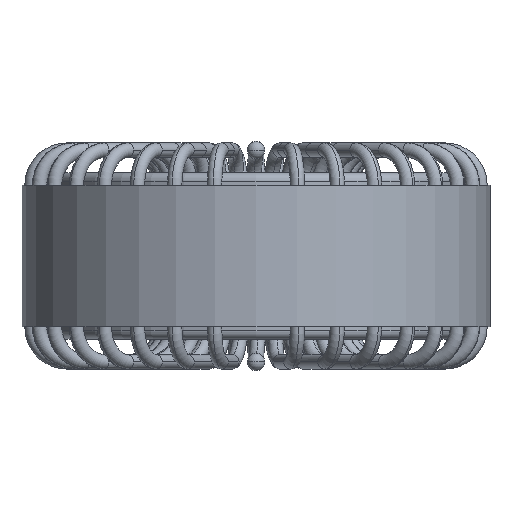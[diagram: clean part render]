
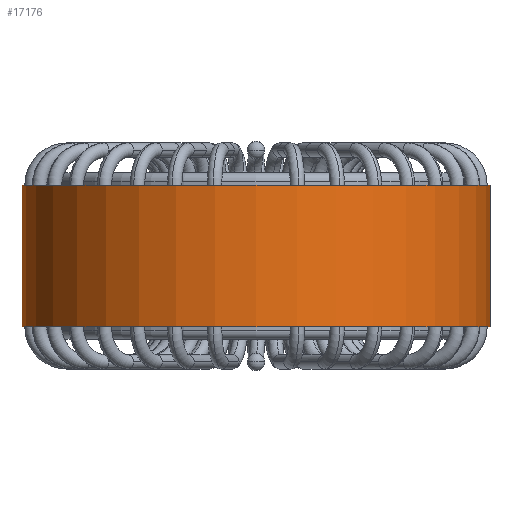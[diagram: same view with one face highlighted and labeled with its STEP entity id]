
A CAD part, front view. The second image highlights one B-rep face of the part: STEP entity #17176.
In plain terms, the highlighted cylindrical face has radius 26.515 mm (diameter 53.03 mm), a partial arc.
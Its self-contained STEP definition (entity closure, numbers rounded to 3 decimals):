
#1264 = VERTEX_POINT ( 'NONE', #4732 ) ;
#1556 = EDGE_LOOP ( 'NONE', ( #26066, #36090, #6933, #8087 ) ) ;
#3010 = CARTESIAN_POINT ( 'NONE',  ( 26.515, 0., 8. ) ) ;
#3308 = CARTESIAN_POINT ( 'NONE',  ( -26.515, 0., 8. ) ) ;
#4402 = CARTESIAN_POINT ( 'NONE',  ( 26.515, 0., 8. ) ) ;
#4732 = CARTESIAN_POINT ( 'NONE',  ( 26.515, 0., -8. ) ) ;
#5154 = AXIS2_PLACEMENT_3D ( 'NONE', #30360, #34520, #11619 ) ;
#6400 = VECTOR ( 'NONE', #48837, 1000. ) ;
#6933 = ORIENTED_EDGE ( 'NONE', *, *, #17495, .T. ) ;
#7010 = EDGE_CURVE ( 'NONE', #48147, #46479, #42681, .T. ) ;
#7953 = DIRECTION ( 'NONE',  ( 0., 0., -1. ) ) ;
#8087 = ORIENTED_EDGE ( 'NONE', *, *, #30239, .T. ) ;
#8574 = VERTEX_POINT ( 'NONE', #10695 ) ;
#8819 = LINE ( 'NONE', #3308, #6400 ) ;
#10695 = CARTESIAN_POINT ( 'NONE',  ( -26.515, 0., -8. ) ) ;
#11445 = DIRECTION ( 'NONE',  ( -1., 0., 0. ) ) ;
#11619 = DIRECTION ( 'NONE',  ( 1., 0., 0. ) ) ;
#12019 = CARTESIAN_POINT ( 'NONE',  ( 0., 0., -8. ) ) ;
#15614 = DIRECTION ( 'NONE',  ( 0., 0., -1. ) ) ;
#17176 = ADVANCED_FACE ( 'NONE', ( #41192 ), #29870, .T. ) ;
#17495 = EDGE_CURVE ( 'NONE', #48147, #8574, #8819, .T. ) ;
#23907 = DIRECTION ( 'NONE',  ( 1., 0., 0. ) ) ;
#25288 = EDGE_CURVE ( 'NONE', #46479, #1264, #40143, .T. ) ;
#26066 = ORIENTED_EDGE ( 'NONE', *, *, #25288, .F. ) ;
#26838 = CARTESIAN_POINT ( 'NONE',  ( 0., 0., 8. ) ) ;
#26988 = AXIS2_PLACEMENT_3D ( 'NONE', #26838, #15614, #11445 ) ;
#27240 = DIRECTION ( 'NONE',  ( 0., 0., 1. ) ) ;
#29870 = CYLINDRICAL_SURFACE ( 'NONE', #26988, 26.515 ) ;
#30239 = EDGE_CURVE ( 'NONE', #8574, #1264, #32934, .T. ) ;
#30360 = CARTESIAN_POINT ( 'NONE',  ( 0., 0., 8. ) ) ;
#32934 = CIRCLE ( 'NONE', #39876, 26.515 ) ;
#33611 = VECTOR ( 'NONE', #7953, 1000. ) ;
#34520 = DIRECTION ( 'NONE',  ( 0., 0., 1. ) ) ;
#36090 = ORIENTED_EDGE ( 'NONE', *, *, #7010, .F. ) ;
#39876 = AXIS2_PLACEMENT_3D ( 'NONE', #12019, #27240, #23907 ) ;
#40143 = LINE ( 'NONE', #4402, #33611 ) ;
#41192 = FACE_OUTER_BOUND ( 'NONE', #1556, .T. ) ;
#42681 = CIRCLE ( 'NONE', #5154, 26.515 ) ;
#44307 = CARTESIAN_POINT ( 'NONE',  ( -26.515, 0., 8. ) ) ;
#46479 = VERTEX_POINT ( 'NONE', #3010 ) ;
#48147 = VERTEX_POINT ( 'NONE', #44307 ) ;
#48837 = DIRECTION ( 'NONE',  ( 0., 0., -1. ) ) ;
